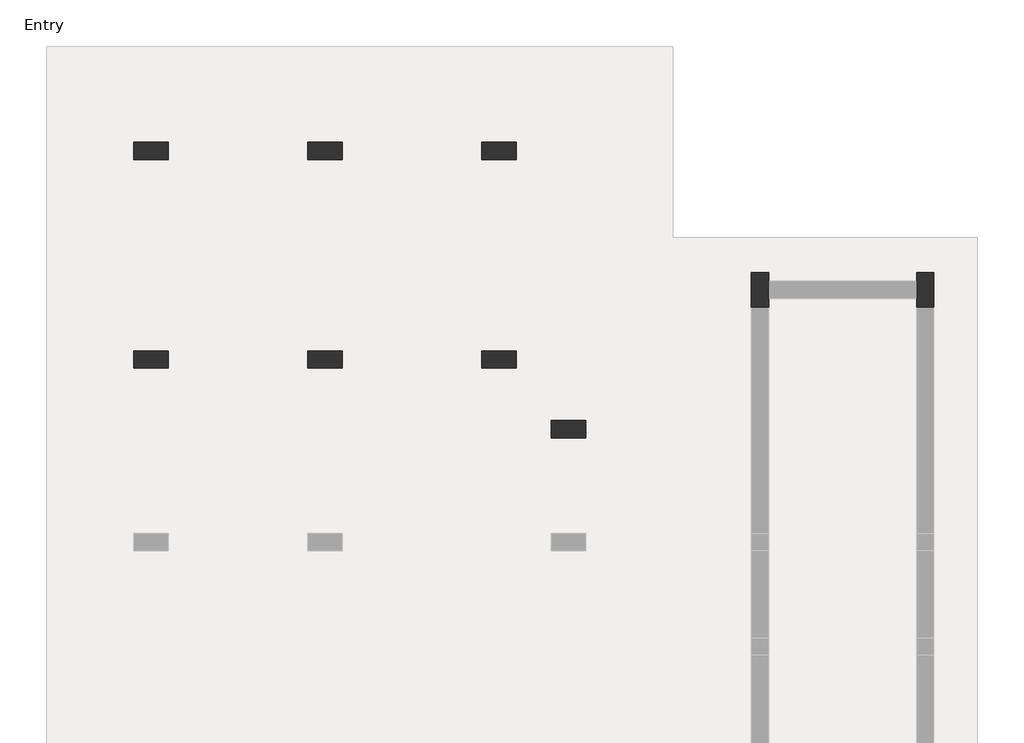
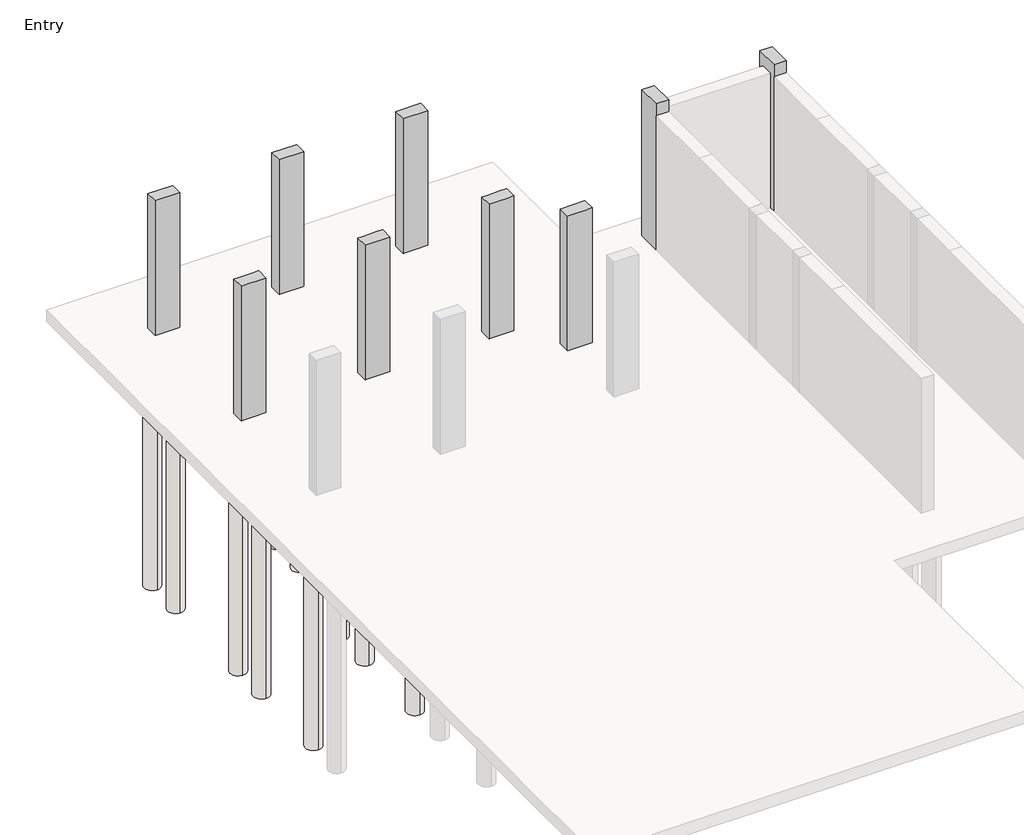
# One storey, part 3 of 3: 36 slabs, 9 columns.
"""IFC4 building model written with IfcOpenShell, lengths in millimetres."""

from ifc_helpers import new_model, si_unit, point, frame, frame_2d, origin, place, context, project, spatial, polyline, circle_curve, trimmed, segment, composite_curve, outline, extrude, faceted_brep, element, save

model = new_model("IFC4")

# Units and contexts
model_context = context("Model", 3, world=origin())
ifc_project = project(units=[si_unit("LENGTHUNIT", "METRE", prefix="MILLI")], contexts=[model_context])

# Site, building, storey
site = spatial("IfcSite", under=ifc_project)
building = spatial("IfcBuilding", under=site)
storey = spatial("IfcBuildingStorey", under=building, Name="Entry", Elevation=0.0)

# Columns
placement = place(None, origin())
element("IfcColumn", 1, ObjectType="Concrete-Rectangular-Column : 12 x 24", at=placement, inside=storey, context=model_context, shape_type="Brep", body=[
    faceted_brep([(-15677.5554735, 14646.9867088, 0.0), (-15067.9554735, 14646.9867088, 0.0), (-15067.9554735, 14342.1867088, 0.0), (-15677.5554735, 14342.1867088, 0.0), (-15677.5554735, 14646.9867088, 3505.2), (-15067.9554735, 14646.9867088, 3505.2), (-15067.9554735, 14646.9867088, 2895.6), (-15067.9554735, 14342.1867088, 3505.2), (-15067.9554735, 14342.1867088, 2895.6), (-15220.3554735, 14342.1867088, 3505.2), (-15525.1554735, 14342.1867088, 3505.2), (-15677.5554735, 14342.1867088, 3505.2)], [[[0, 1, 2, 3]], [[4, 5, 6, 1, 0]], [[5, 7, 8, 2, 1, 6]], [[7, 9, 10, 11, 3, 2, 8]], [[11, 4, 0, 3]], [[4, 11, 10, 9, 7, 5]]]),
])
element("IfcColumn", 2, ObjectType="Concrete-Rectangular-Column : 12 x 24", at=placement, inside=storey, context=model_context, shape_type="Brep", body=[
    faceted_brep([(-12629.5554735, 14646.9867088, 0.0), (-12019.9554735, 14646.9867088, 0.0), (-12019.9554735, 14342.1867088, 0.0), (-12629.5554735, 14342.1867088, 0.0), (-12629.5554735, 14646.9867088, 3505.2), (-12019.9554735, 14646.9867088, 3505.2), (-12019.9554735, 14646.9867088, 2895.6), (-12629.5554735, 14646.9867088, 2895.6), (-12019.9554735, 14342.1867088, 3505.2), (-12019.9554735, 14342.1867088, 2895.6), (-12172.3554735, 14342.1867088, 3505.2), (-12477.1554735, 14342.1867088, 3505.2), (-12629.5554735, 14342.1867088, 3505.2), (-12629.5554735, 14342.1867088, 2895.6)], [[[0, 1, 2, 3]], [[4, 5, 6, 1, 0, 7]], [[5, 8, 9, 2, 1, 6]], [[8, 10, 11, 12, 13, 3, 2, 9]], [[12, 4, 7, 0, 3, 13]], [[4, 12, 11, 10, 8, 5]]]),
])
element("IfcColumn", 3, ObjectType="Concrete-Rectangular-Column : 12 x 24", at=placement, inside=storey, context=model_context, shape_type="Brep", body=[
    faceted_brep([(-9581.5554735, 14646.9867088, 0.0), (-8971.9554735, 14646.9867088, 0.0), (-8971.9554735, 14342.1867088, 0.0), (-9581.5554735, 14342.1867088, 0.0), (-9581.5554735, 14646.9867088, 3505.2), (-8971.9554735, 14646.9867088, 3505.2), (-9581.5554735, 14646.9867088, 2895.6), (-8971.9554735, 14342.1867088, 3505.2), (-9124.3554735, 14342.1867088, 3505.2), (-9429.1554735, 14342.1867088, 3505.2), (-9581.5554735, 14342.1867088, 3505.2), (-9581.5554735, 14342.1867088, 2895.6)], [[[0, 1, 2, 3]], [[4, 5, 1, 0, 6]], [[5, 7, 2, 1]], [[7, 8, 9, 10, 11, 3, 2]], [[10, 4, 6, 0, 3, 11]], [[4, 10, 9, 8, 7, 5]]]),
])
element("IfcColumn", 4, ObjectType="Concrete-Rectangular-Column : 12 x 24", at=placement, inside=storey, context=model_context, shape_type="Brep", body=[
    faceted_brep([(-15677.5554735, 10989.3867088, 0.0), (-15067.9554735, 10989.3867088, 0.0), (-15067.9554735, 10684.5867088, 0.0), (-15677.5554735, 10684.5867088, 0.0), (-15677.5554735, 10989.3867088, 3505.2), (-15525.1554735, 10989.3867088, 3505.2), (-15220.3554735, 10989.3867088, 3505.2), (-15067.9554735, 10989.3867088, 3505.2), (-15067.9554735, 10989.3867088, 2895.6), (-15067.9554735, 10684.5867088, 3505.2), (-15067.9554735, 10684.5867088, 2895.6), (-15220.3554735, 10684.5867088, 3505.2), (-15525.1554735, 10684.5867088, 3505.2), (-15677.5554735, 10684.5867088, 3505.2)], [[[0, 1, 2, 3]], [[4, 5, 6, 7, 8, 1, 0]], [[7, 9, 10, 2, 1, 8]], [[9, 11, 12, 13, 3, 2, 10]], [[13, 4, 0, 3]], [[4, 13, 12, 11, 9, 7, 6, 5]]]),
])
element("IfcColumn", 5, ObjectType="Concrete-Rectangular-Column : 12 x 24", at=placement, inside=storey, context=model_context, shape_type="Brep", body=[
    faceted_brep([(-12629.5554735, 10989.3867088, 0.0), (-12019.9554735, 10989.3867088, 0.0), (-12019.9554735, 10684.5867088, 0.0), (-12629.5554735, 10684.5867088, 0.0), (-12629.5554735, 10989.3867088, 3505.2), (-12477.1554735, 10989.3867088, 3505.2), (-12172.3554735, 10989.3867088, 3505.2), (-12019.9554735, 10989.3867088, 3505.2), (-12019.9554735, 10989.3867088, 2895.6), (-12629.5554735, 10989.3867088, 2895.6), (-12019.9554735, 10684.5867088, 3505.2), (-12019.9554735, 10684.5867088, 2895.6), (-12172.3554735, 10684.5867088, 3505.2), (-12477.1554735, 10684.5867088, 3505.2), (-12629.5554735, 10684.5867088, 3505.2), (-12629.5554735, 10684.5867088, 2895.6)], [[[0, 1, 2, 3]], [[4, 5, 6, 7, 8, 1, 0, 9]], [[7, 10, 11, 2, 1, 8]], [[10, 12, 13, 14, 15, 3, 2, 11]], [[14, 4, 9, 0, 3, 15]], [[4, 14, 13, 12, 10, 7, 6, 5]]]),
])
element("IfcColumn", 6, ObjectType="Concrete-Rectangular-Column : 12 x 24", at=placement, inside=storey, context=model_context, shape_type="Brep", body=[
    faceted_brep([(-9581.5554735, 10989.3867088, 0.0), (-8971.9554735, 10989.3867088, 0.0), (-8971.9554735, 10684.5867088, 0.0), (-9581.5554735, 10684.5867088, 0.0), (-9581.5554735, 10989.3867088, 3505.2), (-9429.1554735, 10989.3867088, 3505.2), (-9124.3554735, 10989.3867088, 3505.2), (-8971.9554735, 10989.3867088, 3505.2), (-9581.5554735, 10989.3867088, 2895.6), (-8971.9554735, 10684.5867088, 3505.2), (-9124.3554735, 10684.5867088, 3505.2), (-9429.1554735, 10684.5867088, 3505.2), (-9581.5554735, 10684.5867088, 3505.2), (-9581.5554735, 10684.5867088, 2895.6)], [[[0, 1, 2, 3]], [[4, 5, 6, 7, 1, 0, 8]], [[7, 9, 2, 1]], [[9, 10, 11, 12, 13, 3, 2]], [[12, 4, 8, 0, 3, 13]], [[4, 12, 11, 10, 9, 7, 6, 5]]]),
])
element("IfcColumn", 7, ObjectType="Concrete-Rectangular-Column : 12 x 24", at=placement, inside=storey, context=model_context, shape_type="Brep", body=[
    faceted_brep([(-8362.3554735, 9770.1867088, 0.0), (-7752.7554735, 9770.1867088, 0.0), (-7752.7554735, 9465.3867088, 0.0), (-8362.3554735, 9465.3867088, 0.0), (-8362.3554735, 9770.1867088, 3505.2), (-7752.7554735, 9770.1867088, 3505.2), (-8362.3554735, 9770.1867088, 2895.6), (-7752.7554735, 9465.3867088, 3505.2), (-7905.1554735, 9465.3867088, 3505.2), (-8209.9554735, 9465.3867088, 3505.2), (-8362.3554735, 9465.3867088, 3505.2), (-8362.3554735, 9465.3867088, 2895.6)], [[[0, 1, 2, 3]], [[4, 5, 1, 0, 6]], [[5, 7, 2, 1]], [[7, 8, 9, 10, 11, 3, 2]], [[10, 4, 6, 0, 3, 11]], [[4, 10, 9, 8, 7, 5]]]),
])
element("IfcColumn", 8, ObjectType="Concrete-Rectangular-Column : 12 x 24", at=placement, inside=storey, context=model_context, shape_type="Brep", body=[
    faceted_brep([(-4857.1554735, 11751.3867088, 0.0), (-4857.1554735, 12360.9867088, 0.0), (-4552.3554735, 12360.9867088, 0.0), (-4552.3554735, 12208.5867088, 0.0), (-4552.3554735, 11903.7867088, 0.0), (-4552.3554735, 11751.3867088, 0.0), (-4857.1554735, 11751.3867088, 3810.0), (-4857.1554735, 12360.9867088, 3810.0), (-4857.1554735, 11751.3867088, 3505.2), (-4552.3554735, 12360.9867088, 3810.0), (-4552.3554735, 11751.3867088, 3810.0), (-4552.3554735, 11751.3867088, 3505.2)], [[[0, 1, 2, 3, 4, 5]], [[6, 7, 1, 0, 8]], [[7, 9, 2, 1]], [[9, 10, 11, 5, 4, 3, 2]], [[10, 6, 8, 0, 5, 11]], [[6, 10, 9, 7]]]),
])
element("IfcColumn", 9, ObjectType="Concrete-Rectangular-Column : 12 x 24", at=placement, inside=storey, context=model_context, shape_type="Brep", body=[
    faceted_brep([(-1961.5554735, 11751.3867088, 0.0), (-1961.5554735, 11903.7867088, 0.0), (-1961.5554735, 12208.5867088, 0.0), (-1961.5554735, 12360.9867088, 0.0), (-1656.7554735, 12360.9867088, 0.0), (-1656.7554735, 11751.3867088, 0.0), (-1961.5554735, 11751.3867088, 3810.0), (-1961.5554735, 12360.9867088, 3810.0), (-1961.5554735, 11751.3867088, 3505.2), (-1656.7554735, 12360.9867088, 3810.0), (-1656.7554735, 11751.3867088, 3810.0), (-1656.7554735, 11751.3867088, 3505.2)], [[[0, 1, 2, 3, 4, 5]], [[6, 7, 3, 2, 1, 0, 8]], [[7, 9, 4, 3]], [[9, 10, 11, 5, 4]], [[10, 6, 8, 0, 5, 11]], [[6, 10, 9, 7]]]),
])

# Slabs
element("IfcSlab", 10, ObjectType="Pile Cap-2 Pile : 31\"x61\"x35\"", at=placement, inside=storey, context=model_context, shape_type="SweptSolid", body=[
    extrude(outline(polyline([(-15779.1554735, 15396.2867088), (-14966.3554735, 15396.2867088), (-14966.3554735, 13592.8867088), (-15779.1554735, 13592.8867088), (-15779.1554735, 15396.2867088)])), frame((0.0, 0.0, -889.0), z_axis=(0.0, 0.0, 1.0), x_axis=(1.0, 0.0, 0.0)), (0.0, 0.0, 1.0), 584.2),
])
element("IfcSlab", 11, ObjectType="Pile Cap-2 Pile : 31\"x61\"x35\"", at=placement, inside=storey, context=model_context, shape_type="SweptSolid", body=[
    extrude(outline(polyline([(-15779.1554735, 11738.6867088), (-14966.3554735, 11738.6867088), (-14966.3554735, 9935.2867088), (-15779.1554735, 9935.2867088), (-15779.1554735, 11738.6867088)])), frame((0.0, 0.0, -889.0), z_axis=(0.0, 0.0, 1.0), x_axis=(1.0, 0.0, 0.0)), (0.0, 0.0, 1.0), 584.2),
])
element("IfcSlab", 12, ObjectType="Pile Cap-2 Pile : 31\"x61\"x35\"", at=placement, inside=storey, context=model_context, shape_type="SweptSolid", body=[
    extrude(outline(polyline([(-12731.1554735, 15396.2867088), (-11918.3554735, 15396.2867088), (-11918.3554735, 13592.8867088), (-12731.1554735, 13592.8867088), (-12731.1554735, 15396.2867088)])), frame((0.0, 0.0, -889.0), z_axis=(0.0, 0.0, 1.0), x_axis=(1.0, 0.0, 0.0)), (0.0, 0.0, 1.0), 584.2),
])
element("IfcSlab", 13, ObjectType="Pile Cap-2 Pile : 31\"x61\"x35\"", at=placement, inside=storey, context=model_context, shape_type="SweptSolid", body=[
    extrude(outline(polyline([(-9683.1554735, 15396.2867088), (-8870.3554735, 15396.2867088), (-8870.3554735, 13592.8867088), (-9683.1554735, 13592.8867088), (-9683.1554735, 15396.2867088)])), frame((0.0, 0.0, -889.0), z_axis=(0.0, 0.0, 1.0), x_axis=(1.0, 0.0, 0.0)), (0.0, 0.0, 1.0), 584.2),
])
element("IfcSlab", 14, ObjectType="Pile Cap-2 Pile : 31\"x61\"x35\"", at=placement, inside=storey, context=model_context, shape_type="SweptSolid", body=[
    extrude(outline(polyline([(-9683.1554735, 11738.6867088), (-8870.3554735, 11738.6867088), (-8870.3554735, 9935.2867088), (-9683.1554735, 9935.2867088), (-9683.1554735, 11738.6867088)])), frame((0.0, 0.0, -889.0), z_axis=(0.0, 0.0, 1.0), x_axis=(1.0, 0.0, 0.0)), (0.0, 0.0, 1.0), 584.2),
])
element("IfcSlab", 15, ObjectType="Pile Cap-2 Pile : 31\"x61\"x35\"", at=placement, inside=storey, context=model_context, shape_type="SweptSolid", body=[
    extrude(outline(polyline([(-8463.9554735, 10519.4867088), (-7651.1554735, 10519.4867088), (-7651.1554735, 8716.0867088), (-8463.9554735, 8716.0867088), (-8463.9554735, 10519.4867088)])), frame((0.0, 0.0, -889.0), z_axis=(0.0, 0.0, 1.0), x_axis=(1.0, 0.0, 0.0)), (0.0, 0.0, 1.0), 584.2),
])
element("IfcSlab", 16, ObjectType="Pile Cap-2 Pile : 31\"x61\"x35\"", at=placement, inside=storey, context=model_context, shape_type="SweptSolid", body=[
    extrude(outline(polyline([(-5606.4554735, 11649.7867088), (-5606.4554735, 12462.5867088), (-3803.0554735, 12462.5867088), (-3803.0554735, 11649.7867088), (-5606.4554735, 11649.7867088)])), frame((0.0, 0.0, -889.0), z_axis=(0.0, 0.0, 1.0), x_axis=(1.0, 0.0, 0.0)), (0.0, 0.0, 1.0), 584.2),
])
element("IfcSlab", 17, ObjectType="Pile Cap-2 Pile : 31\"x61\"x35\"", at=placement, inside=storey, context=model_context, shape_type="SweptSolid", body=[
    extrude(outline(polyline([(-2710.8554735, 11649.7867088), (-2710.8554735, 12462.5867088), (-907.4554735, 12462.5867088), (-907.4554735, 11649.7867088), (-2710.8554735, 11649.7867088)])), frame((0.0, 0.0, -889.0), z_axis=(0.0, 0.0, 1.0), x_axis=(1.0, 0.0, 0.0)), (0.0, 0.0, 1.0), 584.2),
])
element("IfcSlab", 18, ObjectType="Pile Cap-4 Pile : 72\"x72\"x35\"", at=placement, inside=storey, context=model_context, shape_type="SweptSolid", body=[
    extrude(outline(polyline([(-13239.1554735, 11751.3867088), (-11410.3554735, 11751.3867088), (-11410.3554735, 9922.5867088), (-13239.1554735, 9922.5867088), (-13239.1554735, 11751.3867088)])), frame((0.0, 0.0, -889.0), z_axis=(0.0, 0.0, 1.0), x_axis=(1.0, 0.0, 0.0)), (0.0, 0.0, 1.0), 584.2),
])
element("IfcSlab", 19, ObjectType="Pile-Steel Pipe : 16\" Diameter", at=placement, inside=storey, context=model_context, shape_type="SweptSolid", body=[
    extrude(outline(composite_curve([segment(trimmed(circle_curve(frame_2d((-12858.1554735, 10303.5867088)), 203.2), [point((-12858.1554735, 10100.3867088))], [point((-12858.1554735, 10506.7867088))], False, "CARTESIAN"), True, "CONTINUOUS"), segment(trimmed(circle_curve(frame_2d((-12858.1554735, 10303.5867088)), 203.2), [point((-12858.1554735, 10506.7867088))], [point((-12858.1554735, 10100.3867088))], False, "CARTESIAN"), True, "CONTINUOUS")], self_intersect=False)), frame((0.0, 0.0, -6985.0), z_axis=(0.0, 0.0, 1.0), x_axis=(1.0, 0.0, 0.0)), (0.0, 0.0, 1.0), 6096.0),
])
element("IfcSlab", 20, ObjectType="Pile-Steel Pipe : 16\" Diameter", at=placement, inside=storey, context=model_context, shape_type="SweptSolid", body=[
    extrude(outline(composite_curve([segment(trimmed(circle_curve(frame_2d((-11791.3554735, 10303.5867088)), 203.2), [point((-11791.3554735, 10100.3867088))], [point((-11791.3554735, 10506.7867088))], False, "CARTESIAN"), True, "CONTINUOUS"), segment(trimmed(circle_curve(frame_2d((-11791.3554735, 10303.5867088)), 203.2), [point((-11791.3554735, 10506.7867088))], [point((-11791.3554735, 10100.3867088))], False, "CARTESIAN"), True, "CONTINUOUS")], self_intersect=False)), frame((0.0, 0.0, -6985.0), z_axis=(0.0, 0.0, 1.0), x_axis=(1.0, 0.0, 0.0)), (0.0, 0.0, 1.0), 6096.0),
])
element("IfcSlab", 21, ObjectType="Pile-Steel Pipe : 16\" Diameter", at=placement, inside=storey, context=model_context, shape_type="SweptSolid", body=[
    extrude(outline(composite_curve([segment(trimmed(circle_curve(frame_2d((-11791.3554735, 11370.3867088)), 203.2), [point((-11791.3554735, 11167.1867088))], [point((-11791.3554735, 11573.5867088))], False, "CARTESIAN"), True, "CONTINUOUS"), segment(trimmed(circle_curve(frame_2d((-11791.3554735, 11370.3867088)), 203.2), [point((-11791.3554735, 11573.5867088))], [point((-11791.3554735, 11167.1867088))], False, "CARTESIAN"), True, "CONTINUOUS")], self_intersect=False)), frame((0.0, 0.0, -6985.0), z_axis=(0.0, 0.0, 1.0), x_axis=(1.0, 0.0, 0.0)), (0.0, 0.0, 1.0), 6096.0),
])
element("IfcSlab", 22, ObjectType="Pile-Steel Pipe : 16\" Diameter", at=placement, inside=storey, context=model_context, shape_type="SweptSolid", body=[
    extrude(outline(composite_curve([segment(trimmed(circle_curve(frame_2d((-12858.1554735, 11370.3867088)), 203.2), [point((-12858.1554735, 11167.1867088))], [point((-12858.1554735, 11573.5867088))], False, "CARTESIAN"), True, "CONTINUOUS"), segment(trimmed(circle_curve(frame_2d((-12858.1554735, 11370.3867088)), 203.2), [point((-12858.1554735, 11573.5867088))], [point((-12858.1554735, 11167.1867088))], False, "CARTESIAN"), True, "CONTINUOUS")], self_intersect=False)), frame((0.0, 0.0, -6985.0), z_axis=(0.0, 0.0, 1.0), x_axis=(1.0, 0.0, 0.0)), (0.0, 0.0, 1.0), 6096.0),
])
element("IfcSlab", 23, ObjectType="Pile-Steel Pipe : 16\" Diameter", at=placement, inside=storey, context=model_context, shape_type="SweptSolid", body=[
    extrude(outline(composite_curve([segment(trimmed(circle_curve(frame_2d((-11791.3554735, 8169.9867088)), 203.2), [point((-11791.3554735, 7966.7867088))], [point((-11791.3554735, 8373.1867088))], False, "CARTESIAN"), True, "CONTINUOUS"), segment(trimmed(circle_curve(frame_2d((-11791.3554735, 8169.9867088)), 203.2), [point((-11791.3554735, 8373.1867088))], [point((-11791.3554735, 7966.7867088))], False, "CARTESIAN"), True, "CONTINUOUS")], self_intersect=False)), frame((0.0, 0.0, -6985.0), z_axis=(0.0, 0.0, 1.0), x_axis=(1.0, 0.0, 0.0)), (0.0, 0.0, 1.0), 6096.0),
])
element("IfcSlab", 24, ObjectType="Pile-Steel Pipe : 16\" Diameter", at=placement, inside=storey, context=model_context, shape_type="SweptSolid", body=[
    extrude(outline(composite_curve([segment(trimmed(circle_curve(frame_2d((-12858.1554735, 8169.9867088)), 203.2), [point((-12858.1554735, 7966.7867088))], [point((-12858.1554735, 8373.1867088))], False, "CARTESIAN"), True, "CONTINUOUS"), segment(trimmed(circle_curve(frame_2d((-12858.1554735, 8169.9867088)), 203.2), [point((-12858.1554735, 8373.1867088))], [point((-12858.1554735, 7966.7867088))], False, "CARTESIAN"), True, "CONTINUOUS")], self_intersect=False)), frame((0.0, 0.0, -6985.0), z_axis=(0.0, 0.0, 1.0), x_axis=(1.0, 0.0, 0.0)), (0.0, 0.0, 1.0), 6096.0),
])
element("IfcSlab", 25, ObjectType="Pile-Steel Pipe : 16\" Diameter", at=placement, inside=storey, context=model_context, shape_type="SweptSolid", body=[
    extrude(outline(composite_curve([segment(trimmed(circle_curve(frame_2d((-15372.7554735, 14989.8867088)), 203.2), [point((-15372.7554735, 14786.6867088))], [point((-15372.7554735, 15193.0867088))], False, "CARTESIAN"), True, "CONTINUOUS"), segment(trimmed(circle_curve(frame_2d((-15372.7554735, 14989.8867088)), 203.2), [point((-15372.7554735, 15193.0867088))], [point((-15372.7554735, 14786.6867088))], False, "CARTESIAN"), True, "CONTINUOUS")], self_intersect=False)), frame((0.0, 0.0, -6985.0), z_axis=(0.0, 0.0, 1.0), x_axis=(1.0, 0.0, 0.0)), (0.0, 0.0, 1.0), 6096.0),
])
element("IfcSlab", 26, ObjectType="Pile-Steel Pipe : 16\" Diameter", at=placement, inside=storey, context=model_context, shape_type="SweptSolid", body=[
    extrude(outline(composite_curve([segment(trimmed(circle_curve(frame_2d((-15372.7554735, 13999.2867088)), 203.2), [point((-15372.7554735, 13796.0867088))], [point((-15372.7554735, 14202.4867088))], False, "CARTESIAN"), True, "CONTINUOUS"), segment(trimmed(circle_curve(frame_2d((-15372.7554735, 13999.2867088)), 203.2), [point((-15372.7554735, 14202.4867088))], [point((-15372.7554735, 13796.0867088))], False, "CARTESIAN"), True, "CONTINUOUS")], self_intersect=False)), frame((0.0, 0.0, -6985.0), z_axis=(0.0, 0.0, 1.0), x_axis=(1.0, 0.0, 0.0)), (0.0, 0.0, 1.0), 6096.0),
])
element("IfcSlab", 27, ObjectType="Pile-Steel Pipe : 16\" Diameter", at=placement, inside=storey, context=model_context, shape_type="SweptSolid", body=[
    extrude(outline(composite_curve([segment(trimmed(circle_curve(frame_2d((-15372.7554735, 11332.2867088)), 203.2), [point((-15372.7554735, 11129.0867088))], [point((-15372.7554735, 11535.4867088))], False, "CARTESIAN"), True, "CONTINUOUS"), segment(trimmed(circle_curve(frame_2d((-15372.7554735, 11332.2867088)), 203.2), [point((-15372.7554735, 11535.4867088))], [point((-15372.7554735, 11129.0867088))], False, "CARTESIAN"), True, "CONTINUOUS")], self_intersect=False)), frame((0.0, 0.0, -6985.0), z_axis=(0.0, 0.0, 1.0), x_axis=(1.0, 0.0, 0.0)), (0.0, 0.0, 1.0), 6096.0),
])
element("IfcSlab", 28, ObjectType="Pile-Steel Pipe : 16\" Diameter", at=placement, inside=storey, context=model_context, shape_type="SweptSolid", body=[
    extrude(outline(composite_curve([segment(trimmed(circle_curve(frame_2d((-15372.7554735, 10341.6867088)), 203.2), [point((-15372.7554735, 10138.4867088))], [point((-15372.7554735, 10544.8867088))], False, "CARTESIAN"), True, "CONTINUOUS"), segment(trimmed(circle_curve(frame_2d((-15372.7554735, 10341.6867088)), 203.2), [point((-15372.7554735, 10544.8867088))], [point((-15372.7554735, 10138.4867088))], False, "CARTESIAN"), True, "CONTINUOUS")], self_intersect=False)), frame((0.0, 0.0, -6985.0), z_axis=(0.0, 0.0, 1.0), x_axis=(1.0, 0.0, 0.0)), (0.0, 0.0, 1.0), 6096.0),
])
element("IfcSlab", 29, ObjectType="Pile-Steel Pipe : 16\" Diameter", at=placement, inside=storey, context=model_context, shape_type="SweptSolid", body=[
    extrude(outline(composite_curve([segment(trimmed(circle_curve(frame_2d((-15372.7554735, 8131.8867088)), 203.2), [point((-15372.7554735, 7928.6867088))], [point((-15372.7554735, 8335.0867088))], False, "CARTESIAN"), True, "CONTINUOUS"), segment(trimmed(circle_curve(frame_2d((-15372.7554735, 8131.8867088)), 203.2), [point((-15372.7554735, 8335.0867088))], [point((-15372.7554735, 7928.6867088))], False, "CARTESIAN"), True, "CONTINUOUS")], self_intersect=False)), frame((0.0, 0.0, -6985.0), z_axis=(0.0, 0.0, 1.0), x_axis=(1.0, 0.0, 0.0)), (0.0, 0.0, 1.0), 6096.0),
])
element("IfcSlab", 30, ObjectType="Pile-Steel Pipe : 16\" Diameter", at=placement, inside=storey, context=model_context, shape_type="SweptSolid", body=[
    extrude(outline(composite_curve([segment(trimmed(circle_curve(frame_2d((-8057.5554735, 8131.8867088)), 203.2), [point((-8057.5554735, 7928.6867088))], [point((-8057.5554735, 8335.0867088))], False, "CARTESIAN"), True, "CONTINUOUS"), segment(trimmed(circle_curve(frame_2d((-8057.5554735, 8131.8867088)), 203.2), [point((-8057.5554735, 8335.0867088))], [point((-8057.5554735, 7928.6867088))], False, "CARTESIAN"), True, "CONTINUOUS")], self_intersect=False)), frame((0.0, 0.0, -6985.0), z_axis=(0.0, 0.0, 1.0), x_axis=(1.0, 0.0, 0.0)), (0.0, 0.0, 1.0), 6096.0),
])
element("IfcSlab", 31, ObjectType="Pile-Steel Pipe : 16\" Diameter", at=placement, inside=storey, context=model_context, shape_type="SweptSolid", body=[
    extrude(outline(composite_curve([segment(trimmed(circle_curve(frame_2d((-12324.7554735, 14989.8867088)), 203.2), [point((-12324.7554735, 14786.6867088))], [point((-12324.7554735, 15193.0867088))], False, "CARTESIAN"), True, "CONTINUOUS"), segment(trimmed(circle_curve(frame_2d((-12324.7554735, 14989.8867088)), 203.2), [point((-12324.7554735, 15193.0867088))], [point((-12324.7554735, 14786.6867088))], False, "CARTESIAN"), True, "CONTINUOUS")], self_intersect=False)), frame((0.0, 0.0, -6985.0), z_axis=(0.0, 0.0, 1.0), x_axis=(1.0, 0.0, 0.0)), (0.0, 0.0, 1.0), 6096.0),
])
element("IfcSlab", 32, ObjectType="Pile-Steel Pipe : 16\" Diameter", at=placement, inside=storey, context=model_context, shape_type="SweptSolid", body=[
    extrude(outline(composite_curve([segment(trimmed(circle_curve(frame_2d((-12324.7554735, 13999.2867088)), 203.2), [point((-12324.7554735, 13796.0867088))], [point((-12324.7554735, 14202.4867088))], False, "CARTESIAN"), True, "CONTINUOUS"), segment(trimmed(circle_curve(frame_2d((-12324.7554735, 13999.2867088)), 203.2), [point((-12324.7554735, 14202.4867088))], [point((-12324.7554735, 13796.0867088))], False, "CARTESIAN"), True, "CONTINUOUS")], self_intersect=False)), frame((0.0, 0.0, -6985.0), z_axis=(0.0, 0.0, 1.0), x_axis=(1.0, 0.0, 0.0)), (0.0, 0.0, 1.0), 6096.0),
])
element("IfcSlab", 33, ObjectType="Pile-Steel Pipe : 16\" Diameter", at=placement, inside=storey, context=model_context, shape_type="SweptSolid", body=[
    extrude(outline(composite_curve([segment(trimmed(circle_curve(frame_2d((-9276.7554735, 14989.8867088)), 203.2), [point((-9276.7554735, 14786.6867088))], [point((-9276.7554735, 15193.0867088))], False, "CARTESIAN"), True, "CONTINUOUS"), segment(trimmed(circle_curve(frame_2d((-9276.7554735, 14989.8867088)), 203.2), [point((-9276.7554735, 15193.0867088))], [point((-9276.7554735, 14786.6867088))], False, "CARTESIAN"), True, "CONTINUOUS")], self_intersect=False)), frame((0.0, 0.0, -6985.0), z_axis=(0.0, 0.0, 1.0), x_axis=(1.0, 0.0, 0.0)), (0.0, 0.0, 1.0), 6096.0),
])
element("IfcSlab", 34, ObjectType="Pile-Steel Pipe : 16\" Diameter", at=placement, inside=storey, context=model_context, shape_type="SweptSolid", body=[
    extrude(outline(composite_curve([segment(trimmed(circle_curve(frame_2d((-9276.7554735, 13999.2867088)), 203.2), [point((-9276.7554735, 13796.0867088))], [point((-9276.7554735, 14202.4867088))], False, "CARTESIAN"), True, "CONTINUOUS"), segment(trimmed(circle_curve(frame_2d((-9276.7554735, 13999.2867088)), 203.2), [point((-9276.7554735, 14202.4867088))], [point((-9276.7554735, 13796.0867088))], False, "CARTESIAN"), True, "CONTINUOUS")], self_intersect=False)), frame((0.0, 0.0, -6985.0), z_axis=(0.0, 0.0, 1.0), x_axis=(1.0, 0.0, 0.0)), (0.0, 0.0, 1.0), 6096.0),
])
element("IfcSlab", 35, ObjectType="Pile-Steel Pipe : 16\" Diameter", at=placement, inside=storey, context=model_context, shape_type="SweptSolid", body=[
    extrude(outline(composite_curve([segment(trimmed(circle_curve(frame_2d((-9276.7554735, 11332.2867088)), 203.2), [point((-9276.7554735, 11129.0867088))], [point((-9276.7554735, 11535.4867088))], False, "CARTESIAN"), True, "CONTINUOUS"), segment(trimmed(circle_curve(frame_2d((-9276.7554735, 11332.2867088)), 203.2), [point((-9276.7554735, 11535.4867088))], [point((-9276.7554735, 11129.0867088))], False, "CARTESIAN"), True, "CONTINUOUS")], self_intersect=False)), frame((0.0, 0.0, -6985.0), z_axis=(0.0, 0.0, 1.0), x_axis=(1.0, 0.0, 0.0)), (0.0, 0.0, 1.0), 6096.0),
])
element("IfcSlab", 36, ObjectType="Pile-Steel Pipe : 16\" Diameter", at=placement, inside=storey, context=model_context, shape_type="SweptSolid", body=[
    extrude(outline(composite_curve([segment(trimmed(circle_curve(frame_2d((-9276.7554735, 10341.6867088)), 203.2), [point((-9276.7554735, 10138.4867088))], [point((-9276.7554735, 10544.8867088))], False, "CARTESIAN"), True, "CONTINUOUS"), segment(trimmed(circle_curve(frame_2d((-9276.7554735, 10341.6867088)), 203.2), [point((-9276.7554735, 10544.8867088))], [point((-9276.7554735, 10138.4867088))], False, "CARTESIAN"), True, "CONTINUOUS")], self_intersect=False)), frame((0.0, 0.0, -6985.0), z_axis=(0.0, 0.0, 1.0), x_axis=(1.0, 0.0, 0.0)), (0.0, 0.0, 1.0), 6096.0),
])
element("IfcSlab", 37, ObjectType="Pile-Steel Pipe : 16\" Diameter", at=placement, inside=storey, context=model_context, shape_type="SweptSolid", body=[
    extrude(outline(composite_curve([segment(trimmed(circle_curve(frame_2d((-8057.5554735, 10113.0867088)), 203.2), [point((-8057.5554735, 9909.8867088))], [point((-8057.5554735, 10316.2867088))], False, "CARTESIAN"), True, "CONTINUOUS"), segment(trimmed(circle_curve(frame_2d((-8057.5554735, 10113.0867088)), 203.2), [point((-8057.5554735, 10316.2867088))], [point((-8057.5554735, 9909.8867088))], False, "CARTESIAN"), True, "CONTINUOUS")], self_intersect=False)), frame((0.0, 0.0, -6985.0), z_axis=(0.0, 0.0, 1.0), x_axis=(1.0, 0.0, 0.0)), (0.0, 0.0, 1.0), 6096.0),
])
element("IfcSlab", 38, ObjectType="Pile-Steel Pipe : 16\" Diameter", at=placement, inside=storey, context=model_context, shape_type="SweptSolid", body=[
    extrude(outline(composite_curve([segment(trimmed(circle_curve(frame_2d((-8057.5554735, 9122.4867088)), 203.2), [point((-8057.5554735, 8919.2867088))], [point((-8057.5554735, 9325.6867088))], False, "CARTESIAN"), True, "CONTINUOUS"), segment(trimmed(circle_curve(frame_2d((-8057.5554735, 9122.4867088)), 203.2), [point((-8057.5554735, 9325.6867088))], [point((-8057.5554735, 8919.2867088))], False, "CARTESIAN"), True, "CONTINUOUS")], self_intersect=False)), frame((0.0, 0.0, -6985.0), z_axis=(0.0, 0.0, 1.0), x_axis=(1.0, 0.0, 0.0)), (0.0, 0.0, 1.0), 6096.0),
])
element("IfcSlab", 39, ObjectType="Pile-Steel Pipe : 16\" Diameter", at=placement, inside=storey, context=model_context, shape_type="SweptSolid", body=[
    extrude(outline(composite_curve([segment(trimmed(circle_curve(frame_2d((-5200.0554735, 12056.1867088)), 203.2), [point((-4996.8554735, 12056.1867088))], [point((-5403.2554735, 12056.1867088))], False, "CARTESIAN"), True, "CONTINUOUS"), segment(trimmed(circle_curve(frame_2d((-5200.0554735, 12056.1867088)), 203.2), [point((-5403.2554735, 12056.1867088))], [point((-4996.8554735, 12056.1867088))], False, "CARTESIAN"), True, "CONTINUOUS")], self_intersect=False)), frame((0.0, 0.0, -6985.0), z_axis=(0.0, 0.0, 1.0), x_axis=(1.0, 0.0, 0.0)), (0.0, 0.0, 1.0), 6096.0),
])
element("IfcSlab", 40, ObjectType="Pile-Steel Pipe : 16\" Diameter", at=placement, inside=storey, context=model_context, shape_type="SweptSolid", body=[
    extrude(outline(composite_curve([segment(trimmed(circle_curve(frame_2d((-4209.4554735, 12056.1867088)), 203.2), [point((-4006.2554735, 12056.1867088))], [point((-4412.6554735, 12056.1867088))], False, "CARTESIAN"), True, "CONTINUOUS"), segment(trimmed(circle_curve(frame_2d((-4209.4554735, 12056.1867088)), 203.2), [point((-4412.6554735, 12056.1867088))], [point((-4006.2554735, 12056.1867088))], False, "CARTESIAN"), True, "CONTINUOUS")], self_intersect=False)), frame((0.0, 0.0, -6985.0), z_axis=(0.0, 0.0, 1.0), x_axis=(1.0, 0.0, 0.0)), (0.0, 0.0, 1.0), 6096.0),
])
element("IfcSlab", 41, ObjectType="Pile-Steel Pipe : 16\" Diameter", at=placement, inside=storey, context=model_context, shape_type="SweptSolid", body=[
    extrude(outline(composite_curve([segment(trimmed(circle_curve(frame_2d((-2304.4554735, 12056.1867088)), 203.2), [point((-2101.2554735, 12056.1867088))], [point((-2507.6554735, 12056.1867088))], False, "CARTESIAN"), True, "CONTINUOUS"), segment(trimmed(circle_curve(frame_2d((-2304.4554735, 12056.1867088)), 203.2), [point((-2507.6554735, 12056.1867088))], [point((-2101.2554735, 12056.1867088))], False, "CARTESIAN"), True, "CONTINUOUS")], self_intersect=False)), frame((0.0, 0.0, -6985.0), z_axis=(0.0, 0.0, 1.0), x_axis=(1.0, 0.0, 0.0)), (0.0, 0.0, 1.0), 6096.0),
])
element("IfcSlab", 42, ObjectType="Pile-Steel Pipe : 16\" Diameter", at=placement, inside=storey, context=model_context, shape_type="SweptSolid", body=[
    extrude(outline(composite_curve([segment(trimmed(circle_curve(frame_2d((-1313.8554735, 12056.1867088)), 203.2), [point((-1110.6554735, 12056.1867088))], [point((-1517.0554735, 12056.1867088))], False, "CARTESIAN"), True, "CONTINUOUS"), segment(trimmed(circle_curve(frame_2d((-1313.8554735, 12056.1867088)), 203.2), [point((-1517.0554735, 12056.1867088))], [point((-1110.6554735, 12056.1867088))], False, "CARTESIAN"), True, "CONTINUOUS")], self_intersect=False)), frame((0.0, 0.0, -6985.0), z_axis=(0.0, 0.0, 1.0), x_axis=(1.0, 0.0, 0.0)), (0.0, 0.0, 1.0), 6096.0),
])
element("IfcSlab", 43, ObjectType="Pile-Steel Pipe : 16\" Diameter", at=placement, inside=storey, context=model_context, shape_type="SweptSolid", body=[
    extrude(outline(composite_curve([segment(trimmed(circle_curve(frame_2d((-4704.7554735, 8131.8867088)), 203.2), [point((-4704.7554735, 7928.6867088))], [point((-4704.7554735, 8335.0867088))], False, "CARTESIAN"), True, "CONTINUOUS"), segment(trimmed(circle_curve(frame_2d((-4704.7554735, 8131.8867088)), 203.2), [point((-4704.7554735, 8335.0867088))], [point((-4704.7554735, 7928.6867088))], False, "CARTESIAN"), True, "CONTINUOUS")], self_intersect=False)), frame((0.0, 0.0, -6985.0), z_axis=(0.0, 0.0, 1.0), x_axis=(1.0, 0.0, 0.0)), (0.0, 0.0, 1.0), 6096.0),
])
element("IfcSlab", 44, ObjectType="Pile-Steel Pipe : 16\" Diameter", at=placement, inside=storey, context=model_context, shape_type="SweptSolid", body=[
    extrude(outline(composite_curve([segment(trimmed(circle_curve(frame_2d((-1809.1554735, 8131.8867088)), 203.2), [point((-1809.1554735, 7928.6867088))], [point((-1809.1554735, 8335.0867088))], False, "CARTESIAN"), True, "CONTINUOUS"), segment(trimmed(circle_curve(frame_2d((-1809.1554735, 8131.8867088)), 203.2), [point((-1809.1554735, 8335.0867088))], [point((-1809.1554735, 7928.6867088))], False, "CARTESIAN"), True, "CONTINUOUS")], self_intersect=False)), frame((0.0, 0.0, -6985.0), z_axis=(0.0, 0.0, 1.0), x_axis=(1.0, 0.0, 0.0)), (0.0, 0.0, 1.0), 6096.0),
])
element("IfcSlab", 45, ObjectType="Pile-Steel Pipe : 16\" Diameter", at=placement, inside=storey, context=model_context, shape_type="SweptSolid", body=[
    extrude(outline(composite_curve([segment(trimmed(circle_curve(frame_2d((-1809.1554735, 7141.2867088)), 203.2), [point((-1809.1554735, 6938.0867088))], [point((-1809.1554735, 7344.4867088))], False, "CARTESIAN"), True, "CONTINUOUS"), segment(trimmed(circle_curve(frame_2d((-1809.1554735, 7141.2867088)), 203.2), [point((-1809.1554735, 7344.4867088))], [point((-1809.1554735, 6938.0867088))], False, "CARTESIAN"), True, "CONTINUOUS")], self_intersect=False)), frame((0.0, 0.0, -6985.0), z_axis=(0.0, 0.0, 1.0), x_axis=(1.0, 0.0, 0.0)), (0.0, 0.0, 1.0), 6096.0),
])

save(model, "model.ifc")
